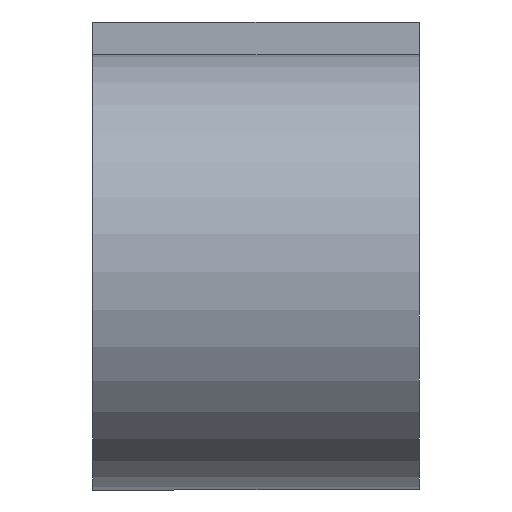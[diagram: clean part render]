
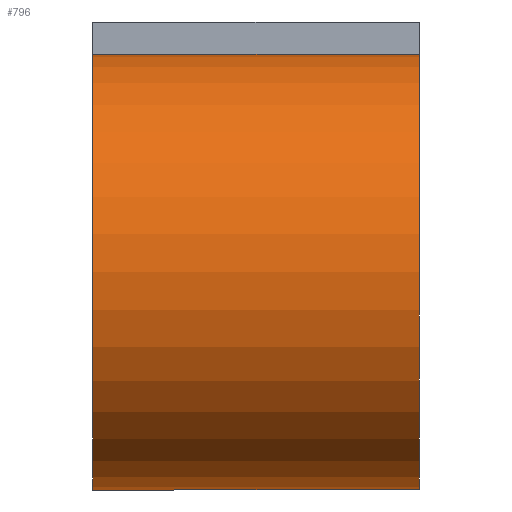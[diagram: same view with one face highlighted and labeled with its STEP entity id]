
A CAD part, left-side view. The second image highlights one B-rep face of the part: STEP entity #796.
In plain terms, the highlighted cylindrical face has radius 9.042 mm (diameter 18.085 mm), a partial arc.
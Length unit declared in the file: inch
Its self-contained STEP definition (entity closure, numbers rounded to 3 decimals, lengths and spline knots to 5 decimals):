
#95 = AXIS2_PLACEMENT_3D ( 'NONE', #581, #107, #405 ) ;
#107 = DIRECTION ( 'NONE',  ( 0., 1., 0. ) ) ;
#108 = AXIS2_PLACEMENT_3D ( 'NONE', #272, #182, #896 ) ;
#167 = EDGE_CURVE ( 'NONE', #623, #298, #221, .T. ) ;
#177 = VECTOR ( 'NONE', #386, 39.37008 ) ;
#182 = DIRECTION ( 'NONE',  ( 0., -1., 0. ) ) ;
#221 = LINE ( 'NONE', #872, #177 ) ;
#238 = DIRECTION ( 'NONE',  ( 0., -1., 0. ) ) ;
#258 = ORIENTED_EDGE ( 'NONE', *, *, #269, .F. ) ;
#269 = EDGE_CURVE ( 'NONE', #298, #692, #979, .T. ) ;
#272 = CARTESIAN_POINT ( 'NONE',  ( -1.2013, 0.433, 0. ) ) ;
#274 = VERTEX_POINT ( 'NONE', #709 ) ;
#298 = VERTEX_POINT ( 'NONE', #488 ) ;
#306 = EDGE_LOOP ( 'NONE', ( #721, #258, #787, #657 ) ) ;
#313 = CARTESIAN_POINT ( 'NONE',  ( -1.2013, -0.1, -0.356 ) ) ;
#335 = CYLINDRICAL_SURFACE ( 'NONE', #108, 0.356 ) ;
#373 = CIRCLE ( 'NONE', #95, 0.356 ) ;
#386 = DIRECTION ( 'NONE',  ( 0., -1., 0. ) ) ;
#405 = DIRECTION ( 'NONE',  ( 1., 0., 0. ) ) ;
#488 = CARTESIAN_POINT ( 'NONE',  ( -1.2013, -0.1, 0.356 ) ) ;
#517 = AXIS2_PLACEMENT_3D ( 'NONE', #944, #238, #550 ) ;
#550 = DIRECTION ( 'NONE',  ( 0., 0., -1. ) ) ;
#554 = CARTESIAN_POINT ( 'NONE',  ( -1.2013, 0.433, 0.356 ) ) ;
#581 = CARTESIAN_POINT ( 'NONE',  ( -1.2013, 0.433, 0. ) ) ;
#623 = VERTEX_POINT ( 'NONE', #554 ) ;
#633 = VECTOR ( 'NONE', #788, 39.37008 ) ;
#647 = EDGE_CURVE ( 'NONE', #274, #692, #1009, .T. ) ;
#657 = ORIENTED_EDGE ( 'NONE', *, *, #766, .F. ) ;
#692 = VERTEX_POINT ( 'NONE', #313 ) ;
#709 = CARTESIAN_POINT ( 'NONE',  ( -1.2013, 0.433, -0.356 ) ) ;
#721 = ORIENTED_EDGE ( 'NONE', *, *, #647, .T. ) ;
#736 = FACE_OUTER_BOUND ( 'NONE', #306, .T. ) ;
#766 = EDGE_CURVE ( 'NONE', #274, #623, #373, .T. ) ;
#783 = CARTESIAN_POINT ( 'NONE',  ( -1.2013, 0.433, -0.356 ) ) ;
#787 = ORIENTED_EDGE ( 'NONE', *, *, #167, .F. ) ;
#788 = DIRECTION ( 'NONE',  ( 0., -1., 0. ) ) ;
#796 = ADVANCED_FACE ( 'NONE', ( #736 ), #335, .T. ) ;
#872 = CARTESIAN_POINT ( 'NONE',  ( -1.2013, 0.433, 0.356 ) ) ;
#896 = DIRECTION ( 'NONE',  ( 0., 0., -1. ) ) ;
#944 = CARTESIAN_POINT ( 'NONE',  ( -1.2013, -0.1, 0. ) ) ;
#979 = CIRCLE ( 'NONE', #517, 0.356 ) ;
#1009 = LINE ( 'NONE', #783, #633 ) ;
